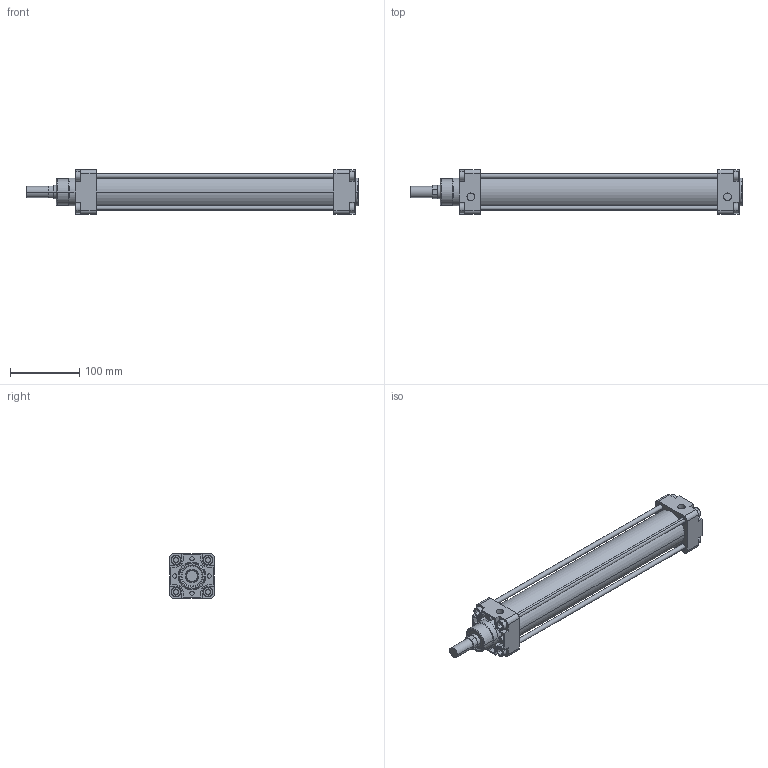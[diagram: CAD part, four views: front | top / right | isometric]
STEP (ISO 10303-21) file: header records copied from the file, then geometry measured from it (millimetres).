
FILE_DESCRIPTION(('CATIA V5 STEP Exchange'),'2;1');
FILE_NAME('D:\stp file for catalog\PNC\50\PNC 50-20-300.stp','2015-10-13T06:49:44+00:00',('none'),('none'),'Version 5-6 Release 2012','CATIA V5 STEP AP203','none');
FILE_SCHEMA(('CONFIG_CONTROL_DESIGN'));
Length unit declared in the file: millimetre
Products named in the file (1): PNC 50-20-300-00
Assembly tree (2 placements, depth 2):
  PNC 50-20-300-00
    #58
    #14116
Bounding box: 481 x 65 x 65 mm (x, y, z)
Volume: 603397.5 mm3; surface area: 246100.3 mm2
Topology: 6 solids, 6 shells, 536 faces, 1334 edges, 870 vertices
Faces by surface type: plane 324, cylinder 168, torus 26, extrusion 16, cone 2
Entity records: 14540 total; most frequent: CARTESIAN_POINT 2873, ORIENTED_EDGE 2668, DIRECTION 1792, EDGE_CURVE 1334, VECTOR 878, VERTEX_POINT 870, LINE 862, AXIS2_PLACEMENT_3D 661
